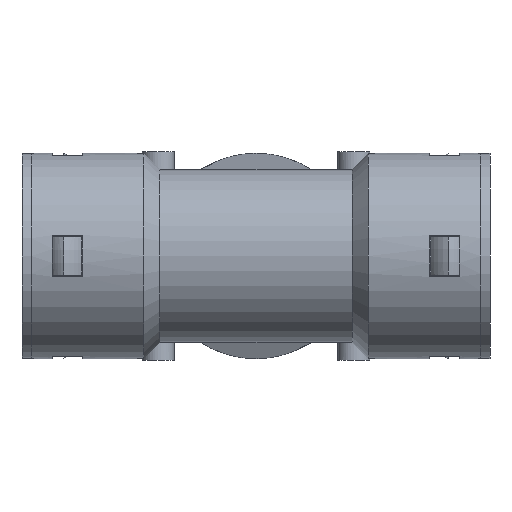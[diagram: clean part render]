
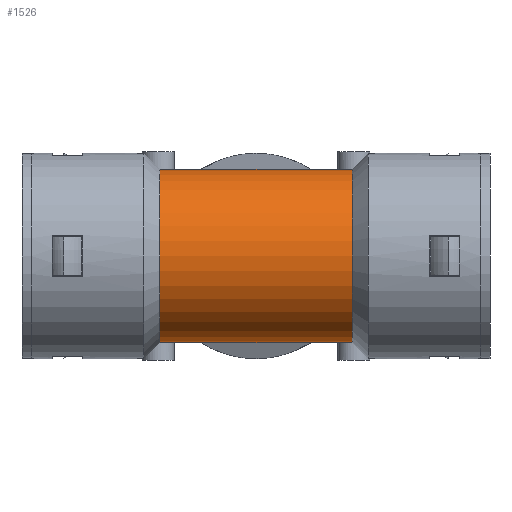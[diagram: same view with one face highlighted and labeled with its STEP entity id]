
A CAD part, front view. The second image highlights one B-rep face of the part: STEP entity #1526.
In plain terms, the highlighted cylindrical face has radius 27 mm (diameter 54 mm), a partial arc.
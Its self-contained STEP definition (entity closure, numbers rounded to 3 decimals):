
#526 = CARTESIAN_POINT ( 'NONE',  ( 30., 0., 0. ) ) ;
#528 = DIRECTION ( 'NONE',  ( -1., 0., 0. ) ) ;
#529 = DIRECTION ( 'NONE',  ( 0., 0., 1. ) ) ;
#542 = CARTESIAN_POINT ( 'NONE',  ( -56.5, 0., 27. ) ) ;
#543 = DIRECTION ( 'NONE',  ( -1., 0., 0. ) ) ;
#680 = CARTESIAN_POINT ( 'NONE',  ( -56.5, 0., 0. ) ) ;
#685 = DIRECTION ( 'NONE',  ( -1., 0., 0. ) ) ;
#709 = DIRECTION ( 'NONE',  ( 0., 0., 1. ) ) ;
#820 = CYLINDRICAL_SURFACE ( 'NONE', #7315, 27. ) ;
#843 = FACE_OUTER_BOUND ( 'NONE', #1238, .T. ) ;
#1238 = EDGE_LOOP ( 'NONE', ( #2512, #2555, #2605, #2520, #2511, #2576, #2506, #2533 ) ) ;
#1526 = ADVANCED_FACE ( 'NONE', ( #843 ), #820, .T. ) ;
#2506 = ORIENTED_EDGE ( 'NONE', *, *, #8583, .F. ) ;
#2511 = ORIENTED_EDGE ( 'NONE', *, *, #8644, .T. ) ;
#2512 = ORIENTED_EDGE ( 'NONE', *, *, #8582, .F. ) ;
#2520 = ORIENTED_EDGE ( 'NONE', *, *, #8641, .T. ) ;
#2533 = ORIENTED_EDGE ( 'NONE', *, *, #8645, .T. ) ;
#2555 = ORIENTED_EDGE ( 'NONE', *, *, #8791, .T. ) ;
#2576 = ORIENTED_EDGE ( 'NONE', *, *, #8646, .F. ) ;
#2605 = ORIENTED_EDGE ( 'NONE', *, *, #8796, .T. ) ;
#3551 = VECTOR ( 'NONE', #7107, 1000. ) ;
#3552 = LINE ( 'NONE', #7094, #3551 ) ;
#3554 = VECTOR ( 'NONE', #7115, 1000. ) ;
#3557 = LINE ( 'NONE', #7109, #3554 ) ;
#3559 = LINE ( 'NONE', #7116, #3560 ) ;
#3560 = VECTOR ( 'NONE', #7117, 1000. ) ;
#3562 = CIRCLE ( 'NONE', #5535, 27. ) ;
#3733 = LINE ( 'NONE', #542, #3739 ) ;
#3734 = CIRCLE ( 'NONE', #5486, 27. ) ;
#3739 = VECTOR ( 'NONE', #543, 1000. ) ;
#4067 = VERTEX_POINT ( 'NONE', #5860 ) ;
#4070 = VERTEX_POINT ( 'NONE', #5863 ) ;
#4077 = VERTEX_POINT ( 'NONE', #5870 ) ;
#4502 = VERTEX_POINT ( 'NONE', #6097 ) ;
#4547 = VERTEX_POINT ( 'NONE', #6141 ) ;
#4585 = VERTEX_POINT ( 'NONE', #6170 ) ;
#4697 = VERTEX_POINT ( 'NONE', #6226 ) ;
#4710 = VERTEX_POINT ( 'NONE', #6251 ) ;
#5486 = AXIS2_PLACEMENT_3D ( 'NONE', #526, #528, #529 ) ;
#5535 = AXIS2_PLACEMENT_3D ( 'NONE', #7114, #7119, #7120 ) ;
#5860 = CARTESIAN_POINT ( 'NONE',  ( -30., 0., -27. ) ) ;
#5863 = CARTESIAN_POINT ( 'NONE',  ( 30., 0., -27. ) ) ;
#5870 = CARTESIAN_POINT ( 'NONE',  ( -17.176, 0., -27. ) ) ;
#6097 = CARTESIAN_POINT ( 'NONE',  ( -17.176, 0., 27. ) ) ;
#6141 = CARTESIAN_POINT ( 'NONE',  ( -30., 0., 27. ) ) ;
#6170 = CARTESIAN_POINT ( 'NONE',  ( 17.176, 0., 27. ) ) ;
#6226 = CARTESIAN_POINT ( 'NONE',  ( 17.176, 0., -27. ) ) ;
#6251 = CARTESIAN_POINT ( 'NONE',  ( 30., 0., 27. ) ) ;
#6879 = CARTESIAN_POINT ( 'NONE',  ( -56.5, 0., -27. ) ) ;
#6912 = DIRECTION ( 'NONE',  ( -1., 0., 0. ) ) ;
#6913 = CARTESIAN_POINT ( 'NONE',  ( -56.5, 0., -27. ) ) ;
#6914 = DIRECTION ( 'NONE',  ( -1., 0., 0. ) ) ;
#7094 = CARTESIAN_POINT ( 'NONE',  ( -56.5, 0., 27. ) ) ;
#7107 = DIRECTION ( 'NONE',  ( -1., 0., 0. ) ) ;
#7109 = CARTESIAN_POINT ( 'NONE',  ( -56.5, 0., 27. ) ) ;
#7114 = CARTESIAN_POINT ( 'NONE',  ( -30., 0., 0. ) ) ;
#7115 = DIRECTION ( 'NONE',  ( -1., 0., 0. ) ) ;
#7116 = CARTESIAN_POINT ( 'NONE',  ( -56.5, 0., -27. ) ) ;
#7117 = DIRECTION ( 'NONE',  ( 1., 0., 0. ) ) ;
#7119 = DIRECTION ( 'NONE',  ( -1., 0., 0. ) ) ;
#7120 = DIRECTION ( 'NONE',  ( 0., 0., 1. ) ) ;
#7315 = AXIS2_PLACEMENT_3D ( 'NONE', #680, #685, #709 ) ;
#7875 = VECTOR ( 'NONE', #6912, 1000. ) ;
#7877 = LINE ( 'NONE', #6879, #7875 ) ;
#7879 = LINE ( 'NONE', #6913, #7880 ) ;
#7880 = VECTOR ( 'NONE', #6914, 1000. ) ;
#8582 = EDGE_CURVE ( 'NONE', #4070, #4697, #7877, .T. ) ;
#8583 = EDGE_CURVE ( 'NONE', #4077, #4067, #7879, .T. ) ;
#8641 = EDGE_CURVE ( 'NONE', #4585, #4502, #3552, .T. ) ;
#8644 = EDGE_CURVE ( 'NONE', #4502, #4547, #3557, .T. ) ;
#8645 = EDGE_CURVE ( 'NONE', #4077, #4697, #3559, .T. ) ;
#8646 = EDGE_CURVE ( 'NONE', #4067, #4547, #3562, .T. ) ;
#8791 = EDGE_CURVE ( 'NONE', #4070, #4710, #3734, .T. ) ;
#8796 = EDGE_CURVE ( 'NONE', #4710, #4585, #3733, .T. ) ;
